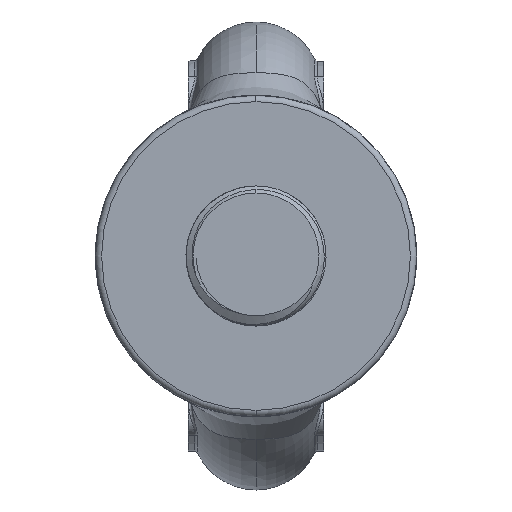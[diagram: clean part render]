
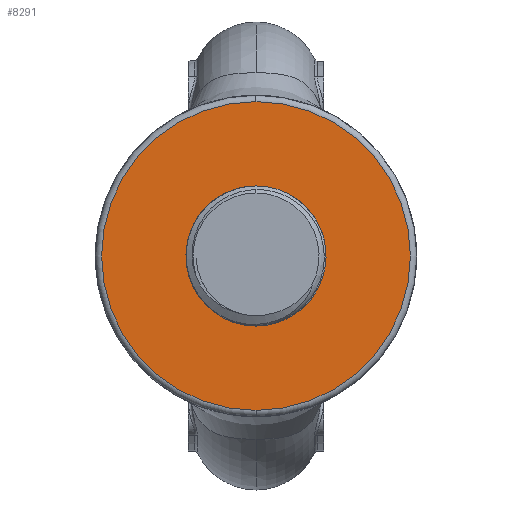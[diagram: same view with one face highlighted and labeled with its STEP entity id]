
A CAD part, left-side view. The second image highlights one B-rep face of the part: STEP entity #8291.
In plain terms, the highlighted planar face has unit normal (-1, 0, 0).
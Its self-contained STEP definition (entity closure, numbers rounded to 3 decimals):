
#2500 = CARTESIAN_POINT ( 'NONE',  ( 0., 0., 0. ) ) ;
#2501 = DIRECTION ( 'NONE',  ( 1., 0., 0. ) ) ;
#2502 = DIRECTION ( 'NONE',  ( 0., 0., -1. ) ) ;
#2503 = CARTESIAN_POINT ( 'NONE',  ( 0., 0., 0. ) ) ;
#2504 = DIRECTION ( 'NONE',  ( -1., 0., 0. ) ) ;
#2505 = DIRECTION ( 'NONE',  ( 0., 0., -1. ) ) ;
#4175 = VERTEX_POINT ( 'NONE', #6821 ) ;
#4178 = VERTEX_POINT ( 'NONE', #6824 ) ;
#4182 = VERTEX_POINT ( 'NONE', #6827 ) ;
#4184 = VERTEX_POINT ( 'NONE', #6829 ) ;
#5834 = EDGE_LOOP ( 'NONE', ( #7897, #7898 ) ) ;
#5858 = EDGE_LOOP ( 'NONE', ( #7899, #7900 ) ) ;
#6821 = CARTESIAN_POINT ( 'NONE',  ( 0., 0., -49. ) ) ;
#6824 = CARTESIAN_POINT ( 'NONE',  ( 0., 0., 49. ) ) ;
#6827 = CARTESIAN_POINT ( 'NONE',  ( 0., 0., -18.5 ) ) ;
#6829 = CARTESIAN_POINT ( 'NONE',  ( 0., 0., 18.5 ) ) ;
#7751 = EDGE_CURVE ( 'NONE', #4178, #4175, #8820, .T. ) ;
#7755 = EDGE_CURVE ( 'NONE', #4184, #4182, #8825, .T. ) ;
#7897 = ORIENTED_EDGE ( 'NONE', *, *, #8367, .T. ) ;
#7898 = ORIENTED_EDGE ( 'NONE', *, *, #7755, .T. ) ;
#7899 = ORIENTED_EDGE ( 'NONE', *, *, #8368, .T. ) ;
#7900 = ORIENTED_EDGE ( 'NONE', *, *, #7751, .T. ) ;
#8291 = ADVANCED_FACE ( 'NONE', ( #18433, #18435 ), #17728, .F. ) ;
#8367 = EDGE_CURVE ( 'NONE', #4182, #4184, #18489, .T. ) ;
#8368 = EDGE_CURVE ( 'NONE', #4175, #4178, #18490, .T. ) ;
#8820 = CIRCLE ( 'NONE', #11482, 49. ) ;
#8825 = CIRCLE ( 'NONE', #11486, 18.5 ) ;
#11482 = AXIS2_PLACEMENT_3D ( 'NONE', #11974, #11975, #11976 ) ;
#11486 = AXIS2_PLACEMENT_3D ( 'NONE', #11986, #11987, #11988 ) ;
#11974 = CARTESIAN_POINT ( 'NONE',  ( 0., 0., 0. ) ) ;
#11975 = DIRECTION ( 'NONE',  ( -1., 0., 0. ) ) ;
#11976 = DIRECTION ( 'NONE',  ( 0., 0., -1. ) ) ;
#11986 = CARTESIAN_POINT ( 'NONE',  ( 0., 0., 0. ) ) ;
#11987 = DIRECTION ( 'NONE',  ( 1., 0., 0. ) ) ;
#11988 = DIRECTION ( 'NONE',  ( 0., 0., -1. ) ) ;
#17015 = AXIS2_PLACEMENT_3D ( 'NONE', #17722, #17730, #17731 ) ;
#17038 = AXIS2_PLACEMENT_3D ( 'NONE', #2500, #2501, #2502 ) ;
#17039 = AXIS2_PLACEMENT_3D ( 'NONE', #2503, #2504, #2505 ) ;
#17722 = CARTESIAN_POINT ( 'NONE',  ( 0., 0., 0. ) ) ;
#17728 = PLANE ( 'NONE',  #17015 ) ;
#17730 = DIRECTION ( 'NONE',  ( 1., 0., 0. ) ) ;
#17731 = DIRECTION ( 'NONE',  ( 0., 0., -1. ) ) ;
#18433 = FACE_BOUND ( 'NONE', #5834, .T. ) ;
#18435 = FACE_OUTER_BOUND ( 'NONE', #5858, .T. ) ;
#18489 = CIRCLE ( 'NONE', #17038, 18.5 ) ;
#18490 = CIRCLE ( 'NONE', #17039, 49. ) ;
